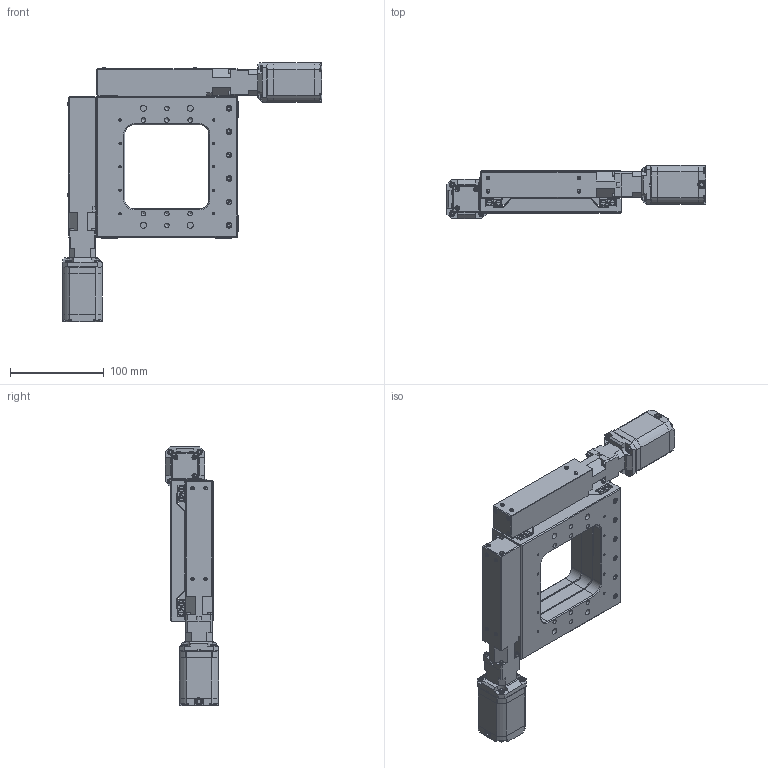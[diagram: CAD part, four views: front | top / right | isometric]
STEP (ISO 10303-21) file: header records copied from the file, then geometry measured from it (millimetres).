
FILE_DESCRIPTION(/* description */ (''),/* implementation_level */ '2;1');
FILE_NAME(/* name */ 'C:\Users\dsgn39.CENTRAS\Desktop\Internetui\8MTFV-75_40LS05-V423\8MTFV-75_40LS05-V423 New motor.stp',/* time_stamp */ '2019-08-07T16:52:33+03:00',/* author */ ('dsgn39'),/* organization */ (''),/* preprocessor_version */ 'ST-DEVELOPER v15.2',/* originating_system */ 'Autodesk Inventor 2014',/* authorisation */ '');
FILE_SCHEMA (('AUTOMOTIVE_DESIGN { 1 0 10303 214 3 1 1 }'));
Products named in the file (2): Part4; Assembly2
Bounding box: 277.8 x 57 x 277.8 mm (x, y, z)
Volume: 1080608.1 mm3; surface area: 234405.5 mm2
Topology: 1 solids, 83 shells, 2308 faces, 5910 edges, 3789 vertices
Faces by surface type: plane 1277, cylinder 604, cone 142, bspline 134, torus 112, sphere 39
Full cylindrical faces by diameter (mm): 1.783 x8, 2 x8, 2.459 x54, 2.5 x22, 2.8 x14, 3 x40, 3.2 x16, 3.4 x4, 3.5 x28, 4 x2, 4.5 x14, 4.917 x16, 5 x6, 5.5 x12, 5.6 x8, 6 x16, 6.5 x8, 7 x2, 8 x2, 11 x8, 16 x2, 16.91 x2, 25.85 x2, 26 x2
Entity records: 66230 total; most frequent: CARTESIAN_POINT 14085, DIRECTION 10536, ORIENTED_EDGE 10336, EDGE_CURVE 5168, AXIS2_PLACEMENT_3D 3839, VERTEX_POINT 3564, EDGE_LOOP 3102, LINE 2858
